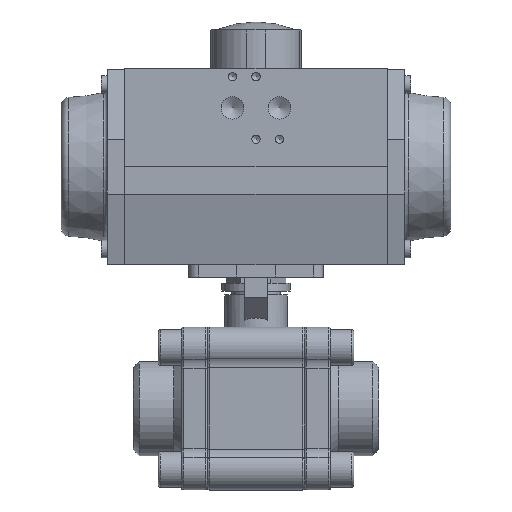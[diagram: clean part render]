
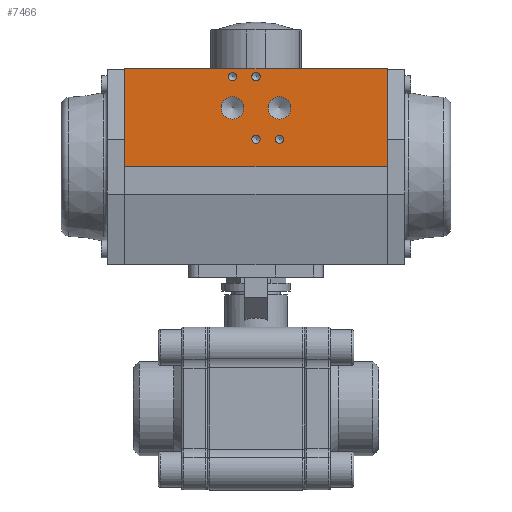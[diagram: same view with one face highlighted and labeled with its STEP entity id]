
A CAD part, top view. The second image highlights one B-rep face of the part: STEP entity #7466.
In plain terms, the highlighted planar face has unit normal (0, 0, 1) as drawn and (1, 0, 0) by its records, which use the part's own axes.
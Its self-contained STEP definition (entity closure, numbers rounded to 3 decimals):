
#192 = DIRECTION ( 'NONE',  ( 0., 0., -1. ) ) ;
#328 = EDGE_CURVE ( 'NONE', #3489, #11383, #5619, .T. ) ;
#331 = DIRECTION ( 'NONE',  ( 0., 0., -1. ) ) ;
#515 = CIRCLE ( 'NONE', #4670, 2.1 ) ;
#992 = AXIS2_PLACEMENT_3D ( 'NONE', #12799, #7571, #11764 ) ;
#1182 = EDGE_CURVE ( 'NONE', #6302, #6302, #515, .T. ) ;
#1260 = DIRECTION ( 'NONE',  ( 0., 0., -1. ) ) ;
#1421 = CARTESIAN_POINT ( 'NONE',  ( 49.5, 30., 12. ) ) ;
#1545 = FACE_BOUND ( 'NONE', #2375, .T. ) ;
#1558 = DIRECTION ( 'NONE',  ( 1., 0., 0. ) ) ;
#1770 = EDGE_CURVE ( 'NONE', #2260, #2260, #11011, .T. ) ;
#1817 = AXIS2_PLACEMENT_3D ( 'NONE', #12878, #9641, #331 ) ;
#2044 = LINE ( 'NONE', #10254, #11019 ) ;
#2134 = AXIS2_PLACEMENT_3D ( 'NONE', #5466, #6562, #192 ) ;
#2260 = VERTEX_POINT ( 'NONE', #3138 ) ;
#2375 = EDGE_LOOP ( 'NONE', ( #4950 ) ) ;
#2424 = ORIENTED_EDGE ( 'NONE', *, *, #1770, .F. ) ;
#2512 = FACE_BOUND ( 'NONE', #3649, .T. ) ;
#2583 = FACE_BOUND ( 'NONE', #8200, .T. ) ;
#3138 = CARTESIAN_POINT ( 'NONE',  ( 49.5, 14., -14.1 ) ) ;
#3489 = VERTEX_POINT ( 'NONE', #4347 ) ;
#3525 = CIRCLE ( 'NONE', #8104, 2.1 ) ;
#3564 = CARTESIAN_POINT ( 'NONE',  ( 49.5, 0., 67. ) ) ;
#3584 = DIRECTION ( 'NONE',  ( 0., 0., -1. ) ) ;
#3649 = EDGE_LOOP ( 'NONE', ( #7595 ) ) ;
#3661 = EDGE_LOOP ( 'NONE', ( #8873 ) ) ;
#3867 = CIRCLE ( 'NONE', #2134, 5.723 ) ;
#3885 = DIRECTION ( 'NONE',  ( 1., 0., 0. ) ) ;
#4095 = ORIENTED_EDGE ( 'NONE', *, *, #328, .F. ) ;
#4218 = CARTESIAN_POINT ( 'NONE',  ( 49.5, 0., -67. ) ) ;
#4347 = CARTESIAN_POINT ( 'NONE',  ( 49.5, 0., 67. ) ) ;
#4670 = AXIS2_PLACEMENT_3D ( 'NONE', #10840, #8769, #3584 ) ;
#4687 = VERTEX_POINT ( 'NONE', #4218 ) ;
#4950 = ORIENTED_EDGE ( 'NONE', *, *, #10602, .F. ) ;
#5043 = CARTESIAN_POINT ( 'NONE',  ( 49.5, 46., 0. ) ) ;
#5192 = CARTESIAN_POINT ( 'NONE',  ( 49.5, 14., -2.1 ) ) ;
#5349 = EDGE_CURVE ( 'NONE', #11366, #11383, #12277, .T. ) ;
#5401 = VECTOR ( 'NONE', #13202, 1000. ) ;
#5466 = CARTESIAN_POINT ( 'NONE',  ( 49.5, 30., -12. ) ) ;
#5619 = LINE ( 'NONE', #3564, #5401 ) ;
#5937 = VERTEX_POINT ( 'NONE', #13404 ) ;
#6100 = EDGE_LOOP ( 'NONE', ( #7269, #4095, #6890, #13207 ) ) ;
#6302 = VERTEX_POINT ( 'NONE', #5192 ) ;
#6342 = DIRECTION ( 'NONE',  ( 1., 0., 0. ) ) ;
#6429 = CARTESIAN_POINT ( 'NONE',  ( 49.5, 50., 67. ) ) ;
#6484 = VECTOR ( 'NONE', #8014, 1000. ) ;
#6562 = DIRECTION ( 'NONE',  ( 1., 0., 0. ) ) ;
#6757 = FACE_BOUND ( 'NONE', #3661, .T. ) ;
#6868 = DIRECTION ( 'NONE',  ( 0., 1., 0. ) ) ;
#6890 = ORIENTED_EDGE ( 'NONE', *, *, #8268, .F. ) ;
#7036 = DIRECTION ( 'NONE',  ( 0., 0., -1. ) ) ;
#7096 = VERTEX_POINT ( 'NONE', #11342 ) ;
#7269 = ORIENTED_EDGE ( 'NONE', *, *, #5349, .T. ) ;
#7314 = VECTOR ( 'NONE', #6868, 1000. ) ;
#7466 = ADVANCED_FACE ( 'NONE', ( #11900, #2583, #6757, #10934, #1545, #2512, #7643 ), #7838, .T. ) ;
#7519 = CARTESIAN_POINT ( 'NONE',  ( 49.5, 50., -67. ) ) ;
#7571 = DIRECTION ( 'NONE',  ( 1., 0., 0. ) ) ;
#7595 = ORIENTED_EDGE ( 'NONE', *, *, #10756, .F. ) ;
#7643 = FACE_OUTER_BOUND ( 'NONE', #6100, .T. ) ;
#7661 = EDGE_LOOP ( 'NONE', ( #8183 ) ) ;
#7715 = DIRECTION ( 'NONE',  ( 0., 0., -1. ) ) ;
#7719 = ORIENTED_EDGE ( 'NONE', *, *, #11638, .F. ) ;
#7810 = AXIS2_PLACEMENT_3D ( 'NONE', #1421, #1558, #7715 ) ;
#7838 = PLANE ( 'NONE',  #992 ) ;
#7972 = EDGE_CURVE ( 'NONE', #4687, #11366, #13319, .T. ) ;
#8014 = DIRECTION ( 'NONE',  ( 0., 0., 1. ) ) ;
#8054 = CARTESIAN_POINT ( 'NONE',  ( 49.5, 46., -2.1 ) ) ;
#8104 = AXIS2_PLACEMENT_3D ( 'NONE', #10375, #6342, #1260 ) ;
#8153 = CARTESIAN_POINT ( 'NONE',  ( 49.5, 50., -67. ) ) ;
#8183 = ORIENTED_EDGE ( 'NONE', *, *, #8849, .F. ) ;
#8187 = VERTEX_POINT ( 'NONE', #8054 ) ;
#8200 = EDGE_LOOP ( 'NONE', ( #2424 ) ) ;
#8268 = EDGE_CURVE ( 'NONE', #4687, #3489, #2044, .T. ) ;
#8769 = DIRECTION ( 'NONE',  ( 1., 0., 0. ) ) ;
#8849 = EDGE_CURVE ( 'NONE', #7096, #7096, #3525, .T. ) ;
#8873 = ORIENTED_EDGE ( 'NONE', *, *, #1182, .F. ) ;
#9109 = CIRCLE ( 'NONE', #7810, 5.722 ) ;
#9588 = AXIS2_PLACEMENT_3D ( 'NONE', #5043, #3885, #7036 ) ;
#9641 = DIRECTION ( 'NONE',  ( 1., 0., 0. ) ) ;
#10254 = CARTESIAN_POINT ( 'NONE',  ( 49.5, 0., -67. ) ) ;
#10375 = CARTESIAN_POINT ( 'NONE',  ( 49.5, 46., 12. ) ) ;
#10602 = EDGE_CURVE ( 'NONE', #12173, #12173, #3867, .T. ) ;
#10756 = EDGE_CURVE ( 'NONE', #5937, #5937, #9109, .T. ) ;
#10840 = CARTESIAN_POINT ( 'NONE',  ( 49.5, 14., 0. ) ) ;
#10934 = FACE_BOUND ( 'NONE', #12717, .T. ) ;
#11011 = CIRCLE ( 'NONE', #1817, 2.1 ) ;
#11019 = VECTOR ( 'NONE', #12185, 1000. ) ;
#11342 = CARTESIAN_POINT ( 'NONE',  ( 49.5, 46., 9.9 ) ) ;
#11366 = VERTEX_POINT ( 'NONE', #7519 ) ;
#11383 = VERTEX_POINT ( 'NONE', #6429 ) ;
#11575 = CIRCLE ( 'NONE', #9588, 2.1 ) ;
#11638 = EDGE_CURVE ( 'NONE', #8187, #8187, #11575, .T. ) ;
#11764 = DIRECTION ( 'NONE',  ( 0., 1., 0. ) ) ;
#11900 = FACE_BOUND ( 'NONE', #7661, .T. ) ;
#12173 = VERTEX_POINT ( 'NONE', #13269 ) ;
#12185 = DIRECTION ( 'NONE',  ( 0., 0., 1. ) ) ;
#12219 = CARTESIAN_POINT ( 'NONE',  ( 49.5, 0., -67. ) ) ;
#12277 = LINE ( 'NONE', #8153, #6484 ) ;
#12717 = EDGE_LOOP ( 'NONE', ( #7719 ) ) ;
#12799 = CARTESIAN_POINT ( 'NONE',  ( 49.5, 0., -67. ) ) ;
#12878 = CARTESIAN_POINT ( 'NONE',  ( 49.5, 14., -12. ) ) ;
#13202 = DIRECTION ( 'NONE',  ( 0., 1., 0. ) ) ;
#13207 = ORIENTED_EDGE ( 'NONE', *, *, #7972, .T. ) ;
#13269 = CARTESIAN_POINT ( 'NONE',  ( 49.5, 30., -17.723 ) ) ;
#13319 = LINE ( 'NONE', #12219, #7314 ) ;
#13404 = CARTESIAN_POINT ( 'NONE',  ( 49.5, 30., 6.277 ) ) ;
